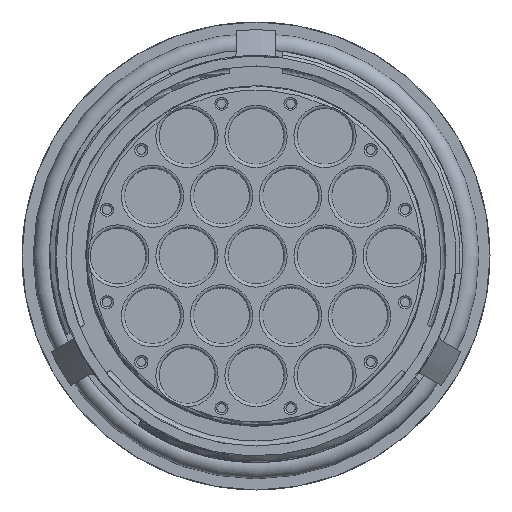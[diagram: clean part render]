
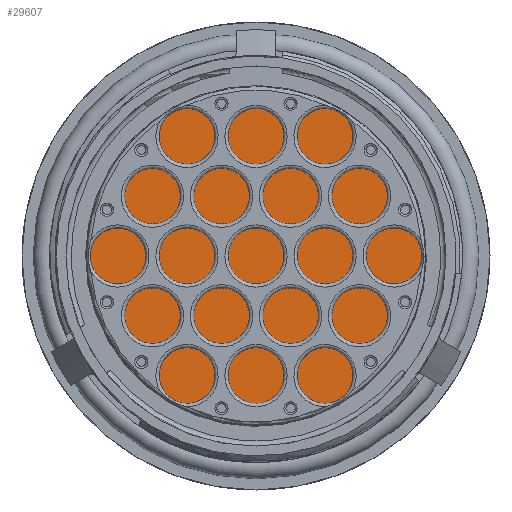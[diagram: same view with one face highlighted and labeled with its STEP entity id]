
A CAD part, front view. The second image highlights one B-rep face of the part: STEP entity #29607.
In plain terms, the highlighted planar face has unit normal (0, -1, 0) as drawn and (0, 1, 0) by its records, which use the part's own axes.
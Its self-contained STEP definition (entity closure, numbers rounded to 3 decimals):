
#731=PLANE('',#32415);
#1831=FACE_BOUND('',#8184,.T.);
#1832=FACE_BOUND('',#8185,.T.);
#1833=FACE_BOUND('',#8186,.T.);
#6142=FACE_OUTER_BOUND('',#8183,.T.);
#8183=EDGE_LOOP('',(#23656));
#8184=EDGE_LOOP('',(#23657));
#8185=EDGE_LOOP('',(#23658));
#8186=EDGE_LOOP('',(#23659));
#11339=CIRCLE('',#32405,1.9);
#11341=CIRCLE('',#32408,1.9);
#11343=CIRCLE('',#32411,1.9);
#11344=CIRCLE('',#32413,29.5);
#13608=VERTEX_POINT('',#55912);
#13610=VERTEX_POINT('',#55917);
#13612=VERTEX_POINT('',#55922);
#13613=VERTEX_POINT('',#55925);
#17190=EDGE_CURVE('',#13608,#13608,#11339,.T.);
#17192=EDGE_CURVE('',#13610,#13610,#11341,.T.);
#17194=EDGE_CURVE('',#13612,#13612,#11343,.T.);
#17195=EDGE_CURVE('',#13613,#13613,#11344,.T.);
#23656=ORIENTED_EDGE('',*,*,#17195,.T.);
#23657=ORIENTED_EDGE('',*,*,#17190,.T.);
#23658=ORIENTED_EDGE('',*,*,#17192,.T.);
#23659=ORIENTED_EDGE('',*,*,#17194,.T.);
#29607=ADVANCED_FACE('',(#6142,#1831,#1832,#1833),#731,.T.);
#32405=AXIS2_PLACEMENT_3D('',#55913,#37961,#37962);
#32408=AXIS2_PLACEMENT_3D('',#55918,#37967,#37968);
#32411=AXIS2_PLACEMENT_3D('',#55923,#37973,#37974);
#32413=AXIS2_PLACEMENT_3D('',#55926,#37977,#37978);
#32415=AXIS2_PLACEMENT_3D('',#55929,#37981,#37982);
#37961=DIRECTION('center_axis',(0.,-1.,0.));
#37962=DIRECTION('ref_axis',(-1.,0.,0.));
#37967=DIRECTION('center_axis',(0.,-1.,0.));
#37968=DIRECTION('ref_axis',(-1.,0.,0.));
#37973=DIRECTION('center_axis',(0.,-1.,0.));
#37974=DIRECTION('ref_axis',(-1.,0.,0.));
#37977=DIRECTION('center_axis',(0.,1.,0.));
#37978=DIRECTION('ref_axis',(-1.,0.,0.));
#37981=DIRECTION('center_axis',(0.,1.,0.));
#37982=DIRECTION('ref_axis',(0.,0.,1.));
#55912=CARTESIAN_POINT('',(-3.367,1.2,-24.306));
#55913=CARTESIAN_POINT('Origin',(-5.267,1.2,-24.306));
#55917=CARTESIAN_POINT('',(-21.783,1.2,-7.592));
#55918=CARTESIAN_POINT('Origin',(-23.683,1.2,-7.592));
#55922=CARTESIAN_POINT('',(7.167,1.2,24.306));
#55923=CARTESIAN_POINT('Origin',(5.267,1.2,24.306));
#55925=CARTESIAN_POINT('',(-29.5,1.2,0.));
#55926=CARTESIAN_POINT('Origin',(0.,1.2,0.));
#55929=CARTESIAN_POINT('Origin',(-14.75,1.2,0.));
